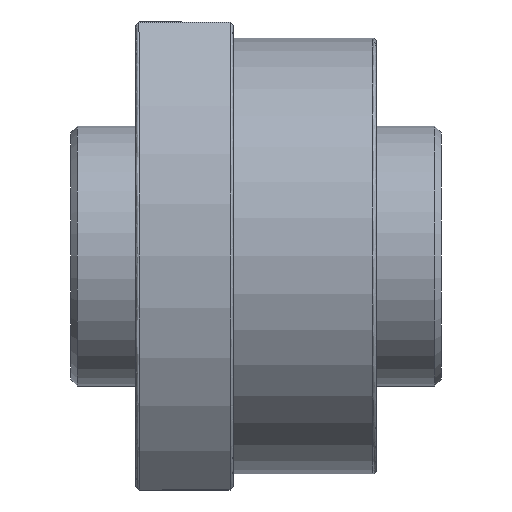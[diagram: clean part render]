
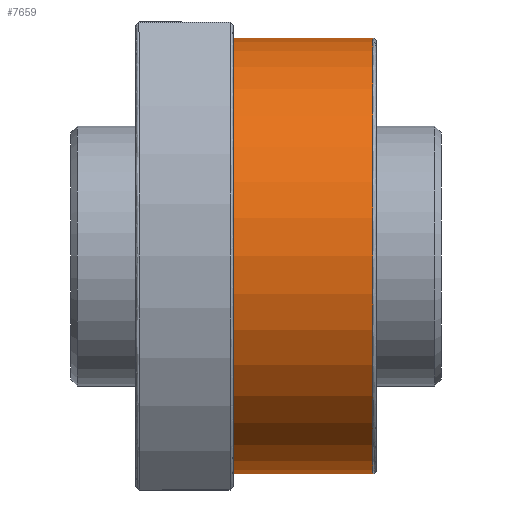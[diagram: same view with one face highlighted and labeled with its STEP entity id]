
A CAD part, front view. The second image highlights one B-rep face of the part: STEP entity #7659.
In plain terms, the highlighted cylindrical face has radius 33.5 mm (diameter 67 mm), a partial arc.
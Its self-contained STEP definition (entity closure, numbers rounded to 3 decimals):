
#952 = DIRECTION ( 'NONE',  ( -1., 0., 0. ) ) ;
#1028 = VERTEX_POINT ( 'NONE', #6521 ) ;
#1128 = DIRECTION ( 'NONE',  ( -1., 0., 0. ) ) ;
#1706 = VECTOR ( 'NONE', #2418, 1000. ) ;
#2181 = VECTOR ( 'NONE', #1128, 1000. ) ;
#2418 = DIRECTION ( 'NONE',  ( -1., 0., 0. ) ) ;
#3894 = CARTESIAN_POINT ( 'NONE',  ( 15., 0., 33.5 ) ) ;
#3906 = ORIENTED_EDGE ( 'NONE', *, *, #11810, .T. ) ;
#3907 = CARTESIAN_POINT ( 'NONE',  ( 15., 0., 0. ) ) ;
#3919 = CARTESIAN_POINT ( 'NONE',  ( 37., 0., 0. ) ) ;
#4035 = ORIENTED_EDGE ( 'NONE', *, *, #4134, .F. ) ;
#4134 = EDGE_CURVE ( 'NONE', #1028, #4945, #10047, .T. ) ;
#4321 = LINE ( 'NONE', #5388, #1706 ) ;
#4784 = LINE ( 'NONE', #8066, #2181 ) ;
#4860 = CARTESIAN_POINT ( 'NONE',  ( 36.5, 0., -33.5 ) ) ;
#4945 = VERTEX_POINT ( 'NONE', #3894 ) ;
#5032 = ORIENTED_EDGE ( 'NONE', *, *, #11288, .F. ) ;
#5298 = CARTESIAN_POINT ( 'NONE',  ( 36.5, 0., 33.5 ) ) ;
#5375 = AXIS2_PLACEMENT_3D ( 'NONE', #3919, #9783, #10920 ) ;
#5388 = CARTESIAN_POINT ( 'NONE',  ( 37., 0., 33.5 ) ) ;
#5448 = CIRCLE ( 'NONE', #9437, 33.5 ) ;
#5869 = DIRECTION ( 'NONE',  ( 0., 0., 1. ) ) ;
#6521 = CARTESIAN_POINT ( 'NONE',  ( 15., 0., -33.5 ) ) ;
#6554 = VERTEX_POINT ( 'NONE', #5298 ) ;
#6723 = CARTESIAN_POINT ( 'NONE',  ( 36.5, 0., 0. ) ) ;
#6735 = ORIENTED_EDGE ( 'NONE', *, *, #9591, .T. ) ;
#7659 = ADVANCED_FACE ( 'NONE', ( #11956 ), #10113, .T. ) ;
#7808 = DIRECTION ( 'NONE',  ( -1., 0., 0. ) ) ;
#8066 = CARTESIAN_POINT ( 'NONE',  ( 37., 0., -33.5 ) ) ;
#8774 = DIRECTION ( 'NONE',  ( 0., 0., 1. ) ) ;
#9054 = VERTEX_POINT ( 'NONE', #4860 ) ;
#9437 = AXIS2_PLACEMENT_3D ( 'NONE', #6723, #952, #8774 ) ;
#9591 = EDGE_CURVE ( 'NONE', #9054, #6554, #5448, .T. ) ;
#9783 = DIRECTION ( 'NONE',  ( -1., 0., 0. ) ) ;
#10047 = CIRCLE ( 'NONE', #12256, 33.5 ) ;
#10113 = CYLINDRICAL_SURFACE ( 'NONE', #5375, 33.5 ) ;
#10920 = DIRECTION ( 'NONE',  ( 0., 0., 1. ) ) ;
#11288 = EDGE_CURVE ( 'NONE', #9054, #1028, #4784, .T. ) ;
#11810 = EDGE_CURVE ( 'NONE', #6554, #4945, #4321, .T. ) ;
#11956 = FACE_OUTER_BOUND ( 'NONE', #12003, .T. ) ;
#12003 = EDGE_LOOP ( 'NONE', ( #5032, #6735, #3906, #4035 ) ) ;
#12256 = AXIS2_PLACEMENT_3D ( 'NONE', #3907, #7808, #5869 ) ;
